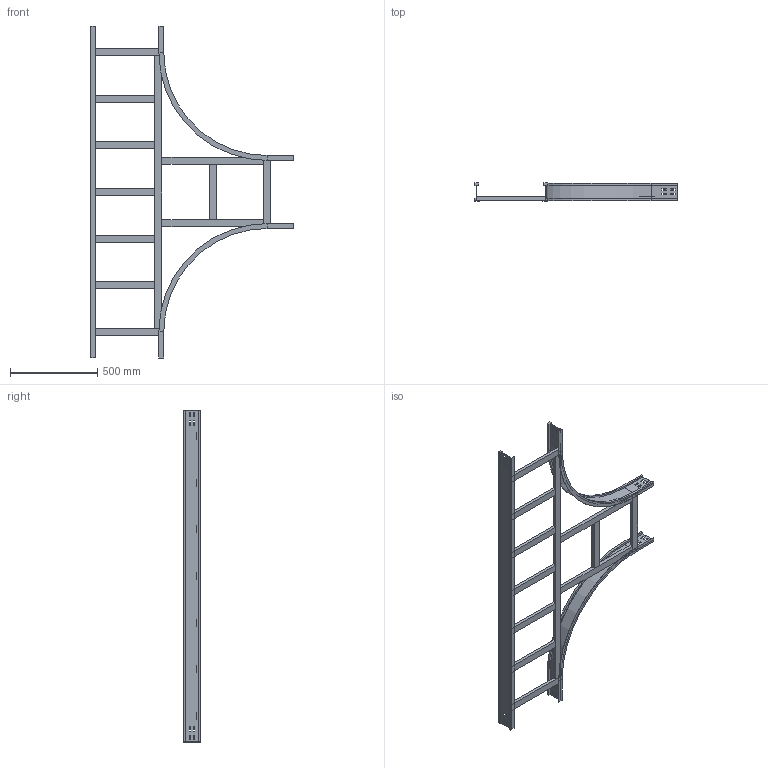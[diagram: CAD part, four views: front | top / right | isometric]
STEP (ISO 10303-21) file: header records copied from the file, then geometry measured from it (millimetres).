
FILE_DESCRIPTION (( 'STEP AP214' ), '1' );
FILE_NAME ('15S6D400.step', '2025-02-21T16:13:01', ( '' ), ( '' ), 'SwSTEP 2.0', 'SolidWorks 2023', '' );
FILE_SCHEMA (( 'AUTOMOTIVE_DESIGN' ));
Length unit declared in the file: millimetre
Products named in the file (8): LONGH.INTERNO 90°_H100_R600; TRAVERSINO_COPPIA_400; LONGH.RETT_H100_R600+400; TRAVERSINO_400; TRAVERSINO_INTERMEDIO_R600+400; 15S6D400; TRAVERSINO_VERT_R600; TRAVERSINO_LONG._R600+400
Assembly tree (15 placements, depth 2):
  15S6D400
    LONGH.INTERNO 90°_H100_R600  x2
    LONGH.RETT_H100_R600+400
    TRAVERSINO_400  x3
    TRAVERSINO_LONG._R600+400
    TRAVERSINO_INTERMEDIO_R600+400  x5
    TRAVERSINO_VERT_R600  x2
    TRAVERSINO_COPPIA_400
Bounding box: 1159 x 100 x 1900 mm (x, y, z)
Volume: 7187626 mm3; surface area: 2045450.5 mm2
Topology: 15 solids, 15 shells, 258 faces, 636 edges, 408 vertices
Faces by surface type: plane 246, cylinder 12
Entity records: 4677 total; most frequent: CARTESIAN_POINT 776, ORIENTED_EDGE 744, DIRECTION 712, EDGE_CURVE 372, VECTOR 360, LINE 360, VERTEX_POINT 240, EDGE_LOOP 178
